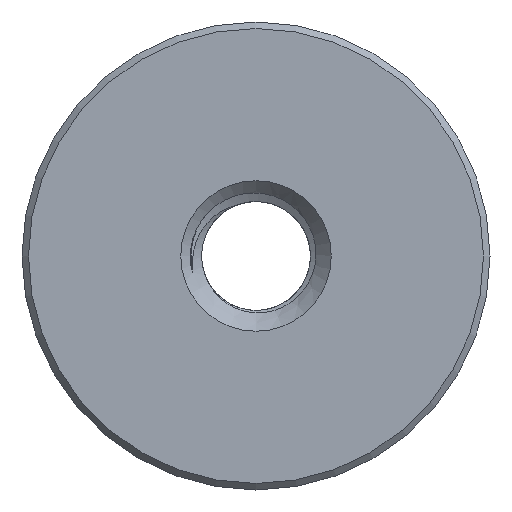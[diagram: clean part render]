
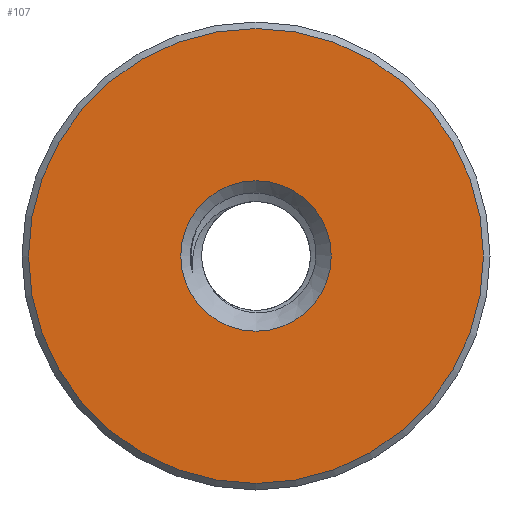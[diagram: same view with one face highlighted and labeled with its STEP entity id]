
A CAD part, left-side view. The second image highlights one B-rep face of the part: STEP entity #107.
In plain terms, the highlighted planar face has unit normal (-1, 0, 0).
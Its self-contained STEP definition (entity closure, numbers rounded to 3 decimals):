
#107=ADVANCED_FACE('',(#3327,#3329),#3331,.T.);
#3327=FACE_BOUND('',#3328,.T.);
#3328=EDGE_LOOP('',(#3840));
#3329=FACE_BOUND('',#3330,.T.);
#3330=EDGE_LOOP('',(#3841));
#3331=PLANE('',#3332);
#3332=AXIS2_PLACEMENT_3D('',#3333,#3334,#3335);
#3333=CARTESIAN_POINT('',(0.,0.,0.));
#3334=DIRECTION('',(-1.,0.,0.));
#3335=DIRECTION('',(0.,0.,-1.));
#3840=ORIENTED_EDGE('',*,*,#3893,.T.);
#3841=ORIENTED_EDGE('',*,*,#3881,.T.);
#3881=EDGE_CURVE('',#3924,#3924,#3925,.F.);
#3893=EDGE_CURVE('',#3944,#3944,#3945,.T.);
#3924=VERTEX_POINT('',#4247);
#3925=CIRCLE('',#4248,5.788);
#3944=VERTEX_POINT('',#5321);
#3945=CIRCLE('',#5322,17.5);
#4247=CARTESIAN_POINT('',(0.,0.,-5.788));
#4248=AXIS2_PLACEMENT_3D('',#4249,#4250,#4251);
#4249=CARTESIAN_POINT('',(0.,0.,0.));
#4250=DIRECTION('',(-1.,0.,0.));
#4251=DIRECTION('',(0.,0.,-1.));
#5321=CARTESIAN_POINT('',(0.,0.,-17.5));
#5322=AXIS2_PLACEMENT_3D('',#5323,#5324,#5325);
#5323=CARTESIAN_POINT('',(0.,0.,0.));
#5324=DIRECTION('',(-1.,0.,0.));
#5325=DIRECTION('',(0.,0.,-1.));
